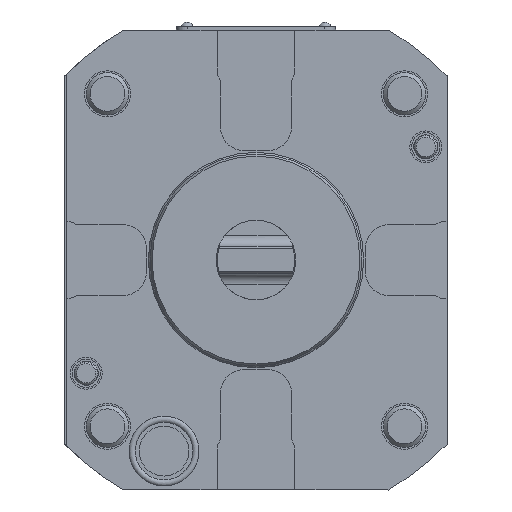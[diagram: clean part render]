
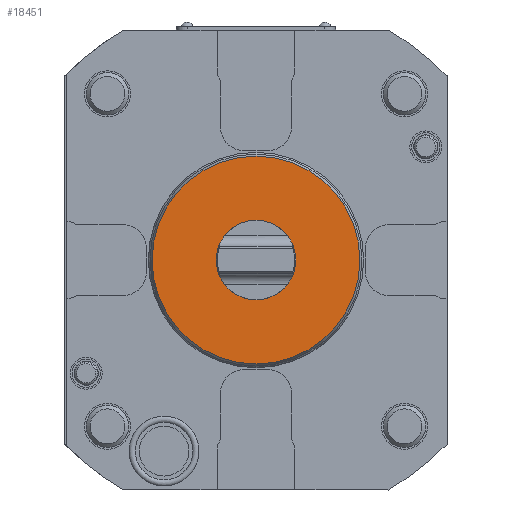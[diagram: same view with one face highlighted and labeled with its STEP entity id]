
A CAD part, left-side view. The second image highlights one B-rep face of the part: STEP entity #18451.
In plain terms, the highlighted planar face has unit normal (-1, 0, 0).
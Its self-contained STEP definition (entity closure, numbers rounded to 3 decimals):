
#8221=PLANE('',#17772);
#8531=CIRCLE('',#17771,29.373);
#8532=CIRCLE('',#17773,11.25);
#9344=ORIENTED_EDGE('',*,*,#11569,.T.);
#9345=ORIENTED_EDGE('',*,*,#11570,.T.);
#10971=VERTEX_POINT('',#16186);
#10972=VERTEX_POINT('',#16189);
#11569=EDGE_CURVE('',#10971,#10971,#8531,.T.);
#11570=EDGE_CURVE('',#10972,#10972,#8532,.T.);
#12173=EDGE_LOOP('',(#9344));
#12174=EDGE_LOOP('',(#9345));
#12748=FACE_BOUND('',#12173,.T.);
#12749=FACE_BOUND('',#12174,.T.);
#13911=DIRECTION('',(-1.,0.,0.));
#13912=DIRECTION('',(0.,0.,-29.373));
#13913=DIRECTION('',(-1.,0.,0.));
#13914=DIRECTION('',(0.,1.,0.));
#13915=DIRECTION('',(1.,0.,0.));
#13916=DIRECTION('',(0.,0.,11.25));
#16186=CARTESIAN_POINT('',(-53.,0.,-29.373));
#16187=CARTESIAN_POINT('',(-53.,0.,0.));
#16188=CARTESIAN_POINT('',(-53.,0.003,25.));
#16189=CARTESIAN_POINT('',(-53.,0.003,11.25));
#16190=CARTESIAN_POINT('',(-53.,0.003,0.));
#17771=AXIS2_PLACEMENT_3D('',#16187,#13911,#13912);
#17772=AXIS2_PLACEMENT_3D('',#16188,#13913,#13914);
#17773=AXIS2_PLACEMENT_3D('',#16190,#13915,#13916);
#18451=ADVANCED_FACE('',(#12748,#12749),#8221,.T.);
